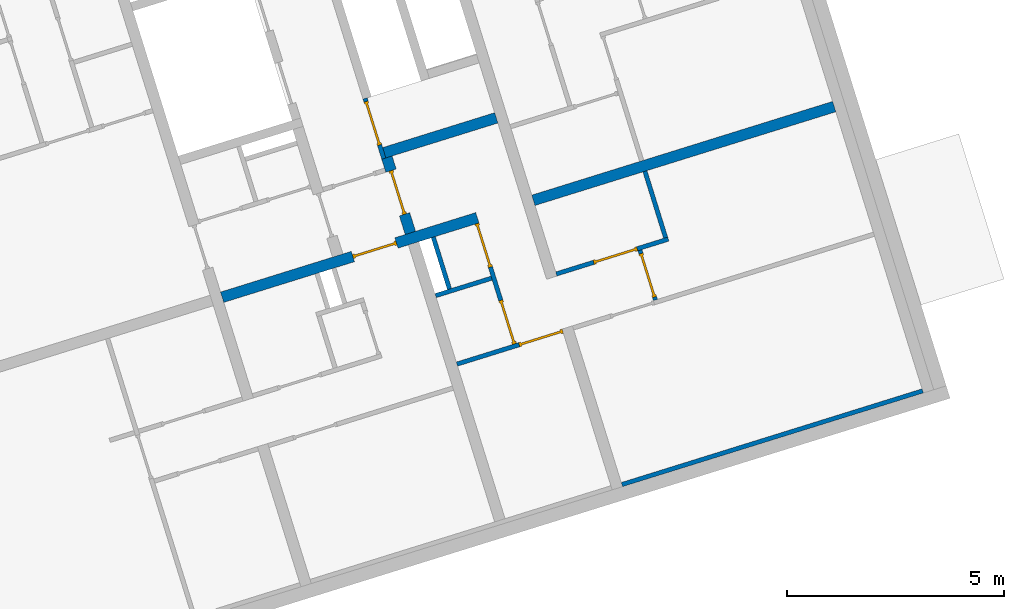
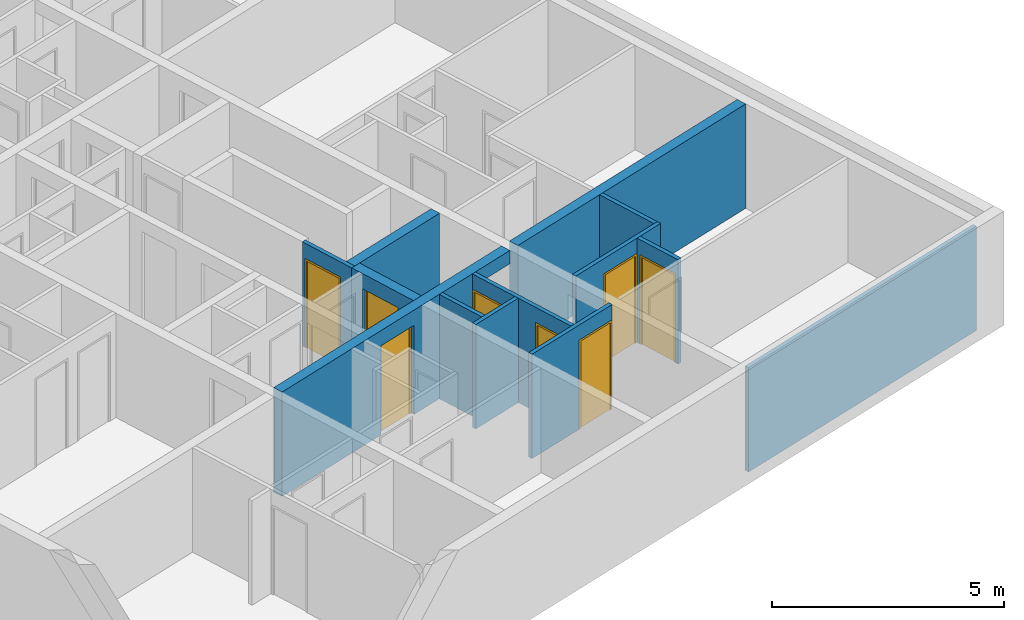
# One storey, part 3 of 9: 13 walls, 8 doors, 10 openings.
"""IFC4 building model written with IfcOpenShell, lengths in metres."""

from ifc_helpers import new_model, entity, si_unit, converted_unit, direction, frame, origin, place, context, subcontext, project, spatial, indexed_curve, outline, extrude, polygons, source, transform, mapped, material, constituent, constituent_set, type_object, type_shapes, element, fill, save


model = new_model("IFC4")

# Units and contexts
model_context = context("Model", 3, precision=1e-05, world=origin(), true_north=direction((6.12323399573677e-17, 1.0)))
body_context = subcontext(model_context, "Body", "Model", "MODEL_VIEW")
ifc_project = project(units=[si_unit("LENGTHUNIT", "METRE"), si_unit("AREAUNIT", "SQUARE_METRE"), si_unit("VOLUMEUNIT", "CUBIC_METRE"), converted_unit("PLANEANGLEUNIT", "DEGREE", entity("IfcPlaneAngleMeasure", 0.0174532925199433), si_unit("PLANEANGLEUNIT", "RADIAN"), dimensions=[0, 0, 0, 0, 0, 0, 0])], contexts=[model_context])

# Site, building, storey
site_placement = place(None, frame((13.1347999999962, 11.9886000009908, 0.0), z_axis=(0.0, 0.0, 1.0), x_axis=(0.954770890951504, 0.297342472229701, 0.0)))
site = spatial("IfcSite", under=ifc_project, at=site_placement, Name="Schiehaven", CompositionType="ELEMENT")
building_placement = place(site_placement, origin())
building = spatial("IfcBuilding", under=site, at=building_placement, Name="VORM huis", CompositionType="ELEMENT")
storey_placement = place(building_placement, frame((0.0, 0.0, 24.9)))
storey = spatial("IfcBuildingStorey", under=building, at=storey_placement, Name="08 achtste verdieping", CompositionType="ELEMENT", Elevation=24.9)

# Wall, openings, door
ifc_material_1 = material(Name="beton_gewapend_ihw", Category="Miscellaneous")
wall_type_1 = type_object("IfcWallType", Name="Basic Wall:28_WA_skelet_wand 250mm_gen", PredefinedType="STANDARD")
wall_1_placement = place(storey_placement, frame((19.8750000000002, 11.8999999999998, 0.0), z_axis=(0.0, 0.0, 1.0), x_axis=(-1.0, 0.0, 0.0)))
wall_1 = element("IfcWall", 1, at=wall_1_placement, inside=storey, type_object=wall_type_1, material=ifc_material_1, Name="Constructieve wand", ObjectType="Wand", PredefinedType="NOTDEFINED", context=body_context, shape_type="Tessellation", body=[
    polygons([(4.09999999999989, -0.124999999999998, 2.34999999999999), (4.09999999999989, -0.124999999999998, 0.0), (7.24999999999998, -0.124999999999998, 0.0), (7.24999999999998, -0.124999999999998, 2.75), (3.21810276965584e-15, -0.125, 2.75), (3.21810276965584e-15, -0.125, 2.4), (1.10000000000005, -0.125, 2.4), (1.10000000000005, -0.125, 0.0), (3.0499999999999, -0.125, 0.0), (3.0499999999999, -0.125, 2.34999999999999), (7.24999999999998, 0.125000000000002, 0.0), (4.0999999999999, 0.125000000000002, 0.0), (4.0999999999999, 0.125000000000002, 2.34999999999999), (3.0499999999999, 0.125, 2.34999999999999), (3.0499999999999, 0.125, 0.0), (1.10000000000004, 0.125, 0.0), (1.10000000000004, 0.125, 2.4), (4.15076800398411e-15, 0.125, 2.4), (8.48223652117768e-15, 0.125, 2.75), (7.24999999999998, 0.125000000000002, 2.75)], [[[1, 2, 3, 4, 5, 6, 7, 8, 9, 10]], [[11, 12, 13, 14, 15, 16, 17, 18, 19, 20]], [[9, 8, 16, 15]], [[5, 4, 20, 19]], [[5, 19, 18, 6]], [[15, 14, 10, 9]], [[13, 12, 2, 1]], [[14, 13, 1, 10]], [[17, 7, 6, 18]], [[7, 17, 16, 8]], [[4, 3, 11, 20]], [[3, 2, 12, 11]]], closed=True),
])
opening_1_placement = place(wall_1_placement, origin())
element("IfcOpeningElement", 2, at=opening_1_placement, cuts=wall_1, Name="Constructieve wand", PredefinedType="OPENING", context=body_context, shape_type="SweptSolid", body=[
    extrude(outline(indexed_curve([(-1.2, -0.550000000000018), (1.2, -0.550000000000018), (1.2, 0.550000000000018), (-1.2, 0.550000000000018), (-1.2, -0.550000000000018)], self_intersect=False)), frame((0.55000000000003, -0.125, 1.2), z_axis=(0.0, 1.0, 0.0), x_axis=(0.0, 0.0, -1.0)), (0.0, 0.0, 1.0), 0.249999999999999),
])
opening_2_placement = place(wall_1_placement, frame((4.09999999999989, 0.124999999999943, 0.0)))
opening_2 = element("IfcOpeningElement", 3, at=opening_2_placement, cuts=wall_1, Name="Woningtoegangsdeur", PredefinedType="OPENING", context=body_context, shape_type="SweptSolid", body=[
    extrude(outline(indexed_curve([(2.34999999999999, 1.05), (0.0, 1.05), (0.0, 1.08286712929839e-15), (2.34999999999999, 1.08286712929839e-15), (2.34999999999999, 1.05)], self_intersect=False)), frame((0.0, 0.0, 0.0), z_axis=(0.0, -1.0, 0.0), x_axis=(0.0, 0.0, 1.0)), (0.0, 0.0, 1.0), 0.25),
])
ifc_material_2 = material(Name="PD_a_binnenwandopeningen", Category="Miscellaneous")
ifc_constituent_1 = constituent(ifc_material_2, Name="PD_a_binnenwandopeningen", Category="Miscellaneous")
ifc_material_3 = material(Name="metaal_aluminium_ntb", Category="Miscellaneous")
ifc_constituent_2 = constituent(ifc_material_3, Name="metaal_aluminium_ntb", Category="Miscellaneous")
ifc_constituent_set_1 = constituent_set(constituents=[ifc_constituent_1, ifc_constituent_2])
door_type_1 = type_object("IfcDoorType", Name="32_DO_binnendeur enkel:woningtoegangsdeur", OperationType="REVOLVING", PredefinedType="DOOR")
shared_shape_1 = source(origin(), body_context, "Body", "SweptSolid", [
    extrude(outline(indexed_curve([(-1.16249999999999, -0.525000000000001), (1.18749999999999, -0.525), (1.18749999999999, 0.525000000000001), (-1.16249999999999, 0.525000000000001), (-1.16249999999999, 0.475), (1.13749999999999, 0.475), (1.13749999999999, -0.475), (-1.16249999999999, -0.475), (-1.16249999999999, -0.525000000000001)], self_intersect=False)), frame((0.525000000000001, 0.0749999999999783, 1.16249999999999), z_axis=(0.0, 1.0, 0.0), x_axis=(0.0, 0.0, 1.0)), (0.0, 0.0, 1.0), 0.1),
    extrude(outline(indexed_curve([(-0.025, -0.475), (0.025, -0.475), (0.025, 0.475), (-0.025, 0.475), (-0.025, -0.475)], self_intersect=False)), frame((0.525000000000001, 0.12499999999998, 0.0), z_axis=(0.0, 0.0, 1.0), x_axis=(0.0, 1.0, 0.0)), (0.0, 0.0, 1.0), 2.29999999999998),
])
door_1_placement = place(opening_2_placement, frame((0.0, 0.0, 0.0), z_axis=(0.0, 0.0, 1.0), x_axis=(-1.0, 0.0, 0.0)))
door_1 = element("IfcDoor", 4, at=door_1_placement, inside=storey, type_object=door_type_1, material=ifc_constituent_set_1, Name="Woningtoegangsdeur", ObjectType="Deur", OperationType="REVOLVING", OverallHeight=2.34999999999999, OverallWidth=1.05, PredefinedType="DOOR", context=body_context, shape_type="MappedRepresentation", body=[
    mapped(shared_shape_1, transform((0.0, 0.0, 0.0), scale=1.0)),
])
fill(opening_2, door_1)

# Walls
ifc_material_4 = material(Name="ntb_ntb_ntb", Category="Miscellaneous")
wall_type_2 = type_object("IfcWallType", Name="Basic Wall:21_WA_gevel_binnenspouwwand 100mm_gen", PredefinedType="STANDARD")
wall_2_placement = place(storey_placement, frame((20.125, 5.04999999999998, 0.0)))
element("IfcWall", 5, at=wall_2_placement, inside=storey, type_object=wall_type_2, material=ifc_material_4, Name="Binnenspouwblad", ObjectType="Wand", PredefinedType="NOTDEFINED", context=body_context, shape_type="SweptSolid", body=[
    extrude(outline(indexed_curve([(7.24999999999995, 0.0500000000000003), (-1.84844170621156e-16, 0.0500000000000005), (1.84844170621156e-16, -0.0500000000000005), (7.24999999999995, -0.0500000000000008), (7.24999999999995, 0.0500000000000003)], self_intersect=False)), origin(), (0.0, 0.0, 1.0), 2.75),
])
wall_type_3 = type_object("IfcWallType", Name="Basic Wall:22_WA_afbouw_binnenwand 250mm_gen", PredefinedType="STANDARD")
wall_3_placement = place(storey_placement, frame((20.125, 11.9, 0.0)))
element("IfcWall", 6, at=wall_3_placement, inside=storey, type_object=wall_type_3, material=ifc_material_4, Name="Binnenwand", ObjectType="Wand", PredefinedType="NOTDEFINED", context=body_context, shape_type="SweptSolid", body=[
    extrude(outline(indexed_curve([(7.24999999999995, 0.125), (-1.92055213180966e-16, 0.125), (1.92055213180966e-16, -0.125), (7.24999999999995, -0.124999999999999), (7.24999999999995, 0.125)], self_intersect=False)), origin(), (0.0, 0.0, 1.0), 2.75),
])

# Wall, opening, door
wall_4_placement = place(storey_placement, frame((17.2000000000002, 13.8399999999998, 0.0), z_axis=(0.0, 0.0, 1.0), x_axis=(0.0, -1.0, 0.0)))
wall_4 = element("IfcWall", 7, at=wall_4_placement, inside=storey, type_object=wall_type_3, material=ifc_material_4, Name="Binnenwand", ObjectType="Wand", PredefinedType="NOTDEFINED", context=body_context, shape_type="Tessellation", body=[
    polygons([(-4.33146851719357e-15, -0.124999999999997, 0.0), (0.215000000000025, -0.125, 0.0), (0.315000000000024, -0.124999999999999, 0.0), (0.315000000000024, -0.124999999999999, 2.34999999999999), (1.36500000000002, -0.125, 2.34999999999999), (1.36500000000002, -0.125, 0.0), (1.81499999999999, -0.125, 0.0), (1.81499999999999, -0.125, 2.75), (0.315000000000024, -0.124999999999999, 2.75), (0.215000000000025, -0.125, 2.75), (-4.33146851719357e-15, -0.124999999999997, 2.75), (0.315000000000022, 0.125000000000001, 2.34999999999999), (0.315000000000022, 0.125000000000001, 0.0), (0.0, 0.125, 0.0), (0.0, 0.125, 2.75), (1.81499999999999, 0.124999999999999, 2.75), (1.81499999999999, 0.124999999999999, 0.0), (1.36500000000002, 0.124999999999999, 0.0), (1.36500000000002, 0.124999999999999, 2.34999999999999), (0.0, -0.0250000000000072, 0.0), (0.0, -0.0250000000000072, 2.75)], [[[1, 2, 3, 4, 5, 6, 7, 8, 9, 10, 11]], [[12, 13, 14, 15, 16, 17, 18, 19]], [[14, 13, 3, 2, 1, 20]], [[8, 7, 17, 16]], [[11, 10, 9, 8, 16, 15, 21]], [[6, 5, 19, 18]], [[4, 3, 13, 12]], [[5, 4, 12, 19]], [[1, 11, 21, 15, 14, 20]], [[18, 17, 7, 6]]], closed=True),
])
opening_3_placement = place(wall_4_placement, frame((1.36500000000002, 0.124999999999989, 0.0)))
opening_3 = element("IfcOpeningElement", 8, at=opening_3_placement, cuts=wall_4, Name="Woningtoegangsdeur", PredefinedType="OPENING", context=body_context, shape_type="SweptSolid", body=[
    extrude(outline(indexed_curve([(2.34999999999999, 1.35358391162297e-15), (2.34999999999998, 1.05), (0.0, 1.05), (2.16573425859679e-15, 1.35358391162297e-15), (2.34999999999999, 1.35358391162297e-15)], self_intersect=False)), frame((0.0, 0.0, 0.0), z_axis=(0.0, -1.0, 0.0), x_axis=(0.0, 0.0, 1.0)), (0.0, 0.0, 1.0), 0.25),
])
ifc_constituent_3 = constituent(ifc_material_2, Name="PD_a_binnenwandopeningen", Category="Miscellaneous")
ifc_constituent_4 = constituent(ifc_material_3, Name="metaal_aluminium_ntb", Category="Miscellaneous")
ifc_constituent_set_2 = constituent_set(constituents=[ifc_constituent_3, ifc_constituent_4])
shared_shape_2 = source(origin(), body_context, "Body", "SweptSolid", [
    extrude(outline(indexed_curve([(0.475, -1.16249999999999), (0.525000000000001, -1.16249999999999), (0.525000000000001, 1.18749999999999), (-0.525000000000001, 1.18749999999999), (-0.525000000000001, -1.16249999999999), (-0.475, -1.16249999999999), (-0.475, 1.13749999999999), (0.475, 1.13749999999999), (0.475, -1.16249999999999)], self_intersect=False)), frame((0.525000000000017, 0.174999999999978, 1.16249999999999), z_axis=(0.0, -1.0, 0.0), x_axis=(1.0, 0.0, 0.0)), (0.0, 0.0, 1.0), 0.1),
    extrude(outline(indexed_curve([(-0.475, -0.025), (0.475, -0.025), (0.475, 0.025), (-0.475, 0.025), (-0.475, -0.025)], self_intersect=False)), frame((0.525000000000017, 0.12499999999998, 0.0)), (0.0, 0.0, 1.0), 2.29999999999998),
])
door_2_placement = place(opening_3_placement, frame((0.0, 0.0, 0.0), z_axis=(0.0, 0.0, 1.0), x_axis=(-1.0, 0.0, 0.0)))
door_2 = element("IfcDoor", 9, at=door_2_placement, inside=storey, type_object=door_type_1, material=ifc_constituent_set_2, Name="Woningtoegangsdeur", ObjectType="Deur", OperationType="REVOLVING", OverallHeight=2.34999999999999, OverallWidth=1.05, PredefinedType="DOOR", context=body_context, shape_type="MappedRepresentation", body=[
    mapped(shared_shape_2, transform((0.0, 0.0, 0.0), scale=1.0)),
])
fill(opening_3, door_2)

# Wall
wall_5_placement = place(storey_placement, frame((19.8750000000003, 13.9649999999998, 0.0), z_axis=(0.0, 0.0, 1.0), x_axis=(-1.0, 0.0, 0.0)))
element("IfcWall", 10, at=wall_5_placement, inside=storey, type_object=wall_type_3, material=ifc_material_4, Name="Binnenwand", ObjectType="Wand", PredefinedType="NOTDEFINED", context=body_context, shape_type="SweptSolid", body=[
    extrude(outline(indexed_curve([(2.70000000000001, 0.124999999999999), (2.34490905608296e-15, 0.125), (1.98655946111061e-15, -0.125), (2.70000000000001, -0.125), (2.70000000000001, 0.124999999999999)], self_intersect=False)), origin(), (0.0, 0.0, 1.0), 2.75),
])

# Wall, opening, door
wall_type_4 = type_object("IfcWallType", Name="Basic Wall:22_WA_afbouw_binnenwand 100mm_gen", PredefinedType="STANDARD")
wall_6_placement = place(storey_placement, frame((17.1250000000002, 13.8399999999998, 0.0), z_axis=(0.0, 0.0, 1.0), x_axis=(0.0, 1.0, 0.0)))
wall_6 = element("IfcWall", 11, at=wall_6_placement, inside=storey, type_object=wall_type_4, material=ifc_material_4, Name="Binnenwand", ObjectType="Wand", PredefinedType="NOTDEFINED", context=body_context, shape_type="Tessellation", body=[
    polygons([(1.44999999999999, -0.0499999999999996, 0.0), (1.44999999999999, -0.0499999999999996, 2.75), (0.249999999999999, -0.0500000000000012, 2.75), (2.16573425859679e-15, -0.0500000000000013, 2.75), (2.16573425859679e-15, -0.0500000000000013, 0.0), (0.249999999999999, -0.0500000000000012, 0.0), (0.324999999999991, -0.0499999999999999, 0.0), (0.324999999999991, -0.0499999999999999, 2.34999999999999), (1.37499999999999, -0.050000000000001, 2.34999999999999), (1.37499999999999, -0.050000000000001, 0.0), (1.44999999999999, 0.0500000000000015, 2.75), (1.44999999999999, 0.0500000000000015, 0.0), (1.37499999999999, 0.0500000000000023, 0.0), (1.37499999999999, 0.0500000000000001, 2.34999999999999), (0.324999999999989, 0.0500000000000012, 2.34999999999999), (0.324999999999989, 0.0500000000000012, 0.0), (0.0, 0.050000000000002, 0.0), (0.0, 0.050000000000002, 2.75)], [[[1, 2, 3, 4, 5, 6, 7, 8, 9, 10]], [[11, 12, 13, 14, 15, 16, 17, 18]], [[5, 17, 16, 7, 6]], [[2, 1, 12, 11]], [[4, 3, 2, 11, 18]], [[15, 8, 7, 16]], [[9, 14, 13, 10]], [[8, 15, 14, 9]], [[5, 4, 18, 17]], [[12, 1, 10, 13]]], closed=True),
])
opening_4_placement = place(wall_6_placement, frame((1.37499999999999, 0.0499999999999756, 0.0)))
opening_4 = element("IfcOpeningElement", 12, at=opening_4_placement, cuts=wall_6, Name="Vluchtdeur", PredefinedType="OPENING", context=body_context, shape_type="SweptSolid", body=[
    extrude(outline(indexed_curve([(2.34999999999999, 1.05), (0.0, 1.05), (0.0, 1.35358391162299e-15), (2.34999999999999, 1.35358391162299e-15), (2.34999999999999, 1.05)], self_intersect=False)), frame((0.0, 0.0, 0.0), z_axis=(0.0, -1.0, 0.0), x_axis=(0.0, 0.0, 1.0)), (0.0, 0.0, 1.0), 0.1),
])
ifc_constituent_5 = constituent(ifc_material_2, Name="PD_a_binnenwandopeningen", Category="Miscellaneous")
ifc_constituent_6 = constituent(ifc_material_3, Name="metaal_aluminium_ntb", Category="Miscellaneous")
ifc_constituent_set_3 = constituent_set(constituents=[ifc_constituent_5, ifc_constituent_6])
door_type_2 = type_object("IfcDoorType", Name="32_DO_binnendeur enkel:binnendeur zelfsluitend 30min", OperationType="NOTDEFINED", PredefinedType="DOOR")
shared_shape_3 = source(origin(), body_context, "Body", "SweptSolid", [
    extrude(outline(indexed_curve([(-1.16249999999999, -0.525000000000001), (1.18749999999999, -0.525), (1.18749999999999, 0.525), (-1.16249999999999, 0.525), (-1.16249999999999, 0.475), (1.13749999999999, 0.475), (1.13749999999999, -0.475), (-1.16249999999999, -0.475), (-1.16249999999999, -0.525000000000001)], self_intersect=False)), frame((0.525000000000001, 0.0, 1.16249999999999), z_axis=(0.0, 1.0, 0.0), x_axis=(0.0, 0.0, 1.0)), (0.0, 0.0, 1.0), 0.1),
    extrude(outline(indexed_curve([(-0.025, -0.475), (0.025, -0.475), (0.025, 0.475), (-0.025, 0.475), (-0.025, -0.475)], self_intersect=False)), frame((0.525000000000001, 0.0499999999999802, 0.0), z_axis=(0.0, 0.0, 1.0), x_axis=(0.0, 1.0, 0.0)), (0.0, 0.0, 1.0), 2.29999999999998),
])
type_shapes(door_type_2, [shared_shape_3])
door_3_placement = place(opening_4_placement, frame((0.0, 0.0, 0.0), z_axis=(0.0, 0.0, 1.0), x_axis=(-1.0, 0.0, 0.0)))
door_3 = element("IfcDoor", 13, at=door_3_placement, inside=storey, type_object=door_type_2, material=ifc_constituent_set_3, Name="Vluchtdeur", ObjectType="Deur", OperationType="NOTDEFINED", OverallHeight=2.34999999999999, OverallWidth=1.05, PredefinedType="DOOR", context=body_context, shape_type="MappedRepresentation", body=[
    mapped(shared_shape_3, transform((0.0, 0.0, 0.0), scale=1.0)),
])
fill(opening_4, door_3)

# Wall
wall_7_placement = place(storey_placement, frame((17.3250000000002, 10.4749999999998, 0.0)))
element("IfcWall", 14, at=wall_7_placement, inside=storey, type_object=wall_type_4, material=ifc_material_4, Name="Binnenwand", ObjectType="Wand", PredefinedType="NOTDEFINED", context=body_context, shape_type="SweptSolid", body=[
    extrude(outline(indexed_curve([(1.34999999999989, 0.0500000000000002), (-1.88291440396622e-16, 0.0499999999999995), (1.88291440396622e-16, -0.0499999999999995), (1.34999999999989, -0.0499999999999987), (1.34999999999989, 0.0500000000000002)], self_intersect=False)), origin(), (0.0, 0.0, 1.0), 2.75),
])

# Wall, opening, door
wall_8_placement = place(storey_placement, frame((22.8250000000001, 10.1249999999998, 0.0), z_axis=(0.0, 0.0, 1.0), x_axis=(-1.0, 0.0, 0.0)))
wall_8 = element("IfcWall", 15, at=wall_8_placement, inside=storey, type_object=wall_type_4, material=ifc_material_4, Name="Binnenwand", ObjectType="Wand", PredefinedType="NOTDEFINED", context=body_context, shape_type="Tessellation", body=[
    polygons([(4.28724628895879e-16, -0.0500000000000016, 0.0), (0.0999999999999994, -0.0500000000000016, 0.0), (0.750000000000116, -0.0500000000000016, 0.0), (0.750000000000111, -0.0500000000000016, 2.34999999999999), (1.80000000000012, -0.0500000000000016, 2.34999999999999), (1.80000000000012, -0.0500000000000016, 0.0), (2.69999999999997, -0.0500000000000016, 0.0), (2.69999999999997, -0.0500000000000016, 2.75), (0.0999999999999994, -0.0500000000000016, 2.75), (4.28724628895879e-16, -0.0500000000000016, 2.75), (0.750000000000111, 0.0499999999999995, 2.34999999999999), (0.750000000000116, 0.0499999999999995, 0.0), (0.650000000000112, 0.0499999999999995, 0.0), (1.26523112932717e-16, 0.0499999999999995, 0.0), (1.26523112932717e-16, 0.0499999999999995, 2.75), (0.650000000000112, 0.0499999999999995, 2.75), (0.750000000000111, 0.0499999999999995, 2.75), (2.69999999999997, 0.0499999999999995, 2.75), (2.69999999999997, 0.0499999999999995, 0.0), (1.80000000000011, 0.0499999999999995, 0.0), (1.80000000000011, 0.0499999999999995, 2.34999999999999)], [[[1, 2, 3, 4, 5, 6, 7, 8, 9, 10]], [[11, 12, 13, 14, 15, 16, 17, 18, 19, 20, 21]], [[14, 13, 12, 3, 2, 1]], [[8, 7, 19, 18]], [[10, 9, 8, 18, 17, 16, 15]], [[6, 5, 21, 20]], [[4, 3, 12, 11]], [[5, 4, 11, 21]], [[1, 10, 15, 14]], [[20, 19, 7, 6]]], closed=True),
])
opening_5_placement = place(wall_8_placement, frame((0.750000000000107, -0.0500000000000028, 0.0)))
opening_5 = element("IfcOpeningElement", 16, at=opening_5_placement, cuts=wall_8, Name="Binnendeur", PredefinedType="OPENING", context=body_context, shape_type="SweptSolid", body=[
    extrude(outline(indexed_curve([(2.34999999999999, 1.05), (0.0, 1.05), (0.0, -3.50253438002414e-30), (2.34999999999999, -3.50253438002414e-30), (2.34999999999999, 1.05)], self_intersect=False)), frame((0.0, 0.0, 0.0), z_axis=(0.0, 1.0, 0.0), x_axis=(0.0, 0.0, 1.0)), (0.0, 0.0, 1.0), 0.1),
])
ifc_constituent_7 = constituent(ifc_material_2, Name="PD_a_binnenwandopeningen", Category="Miscellaneous")
ifc_constituent_8 = constituent(ifc_material_3, Name="metaal_aluminium_ntb", Category="Miscellaneous")
ifc_constituent_set_4 = constituent_set(constituents=[ifc_constituent_7, ifc_constituent_8])
door_type_3 = type_object("IfcDoorType", Name="32_DO_binnendeur enkel:binnendeur", OperationType="REVOLVING", PredefinedType="DOOR")
shared_shape_4 = source(origin(), body_context, "Body", "SweptSolid", [
    extrude(outline(indexed_curve([(-1.16249999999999, -0.525000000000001), (1.18749999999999, -0.525), (1.18749999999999, 0.525), (-1.16249999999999, 0.525), (-1.16249999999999, 0.475), (1.13749999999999, 0.475), (1.13749999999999, -0.475), (-1.16249999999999, -0.475), (-1.16249999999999, -0.525000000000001)], self_intersect=False)), frame((0.525000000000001, 0.0, 1.16249999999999), z_axis=(0.0, 1.0, 0.0), x_axis=(0.0, 0.0, 1.0)), (0.0, 0.0, 1.0), 0.1),
    extrude(outline(indexed_curve([(-0.025, -0.475), (0.025, -0.475), (0.025, 0.475), (-0.025, 0.475), (-0.025, -0.475)], self_intersect=False)), frame((0.525000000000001, 0.0499999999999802, 0.0), z_axis=(0.0, 0.0, 1.0), x_axis=(0.0, 1.0, 0.0)), (0.0, 0.0, 1.0), 2.29999999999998),
])
type_shapes(door_type_3, [shared_shape_4])
door_4_placement = place(opening_5_placement, origin())
door_4 = element("IfcDoor", 17, at=door_4_placement, inside=storey, type_object=door_type_3, material=ifc_constituent_set_4, Name="Binnendeur", ObjectType="Deur", OperationType="REVOLVING", OverallHeight=2.34999999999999, OverallWidth=1.05, PredefinedType="DOOR", context=body_context, shape_type="MappedRepresentation", body=[
    mapped(shared_shape_4, transform((0.0, 0.0, 0.0), scale=1.0)),
])
fill(opening_5, door_4)

# Wall
wall_9_placement = place(storey_placement, frame((22.7750000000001, 10.1749999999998, 0.0), z_axis=(0.0, 0.0, 1.0), x_axis=(0.0, 1.0, 0.0)))
element("IfcWall", 18, at=wall_9_placement, inside=storey, type_object=wall_type_4, material=ifc_material_4, Name="Binnenwand", ObjectType="Wand", PredefinedType="NOTDEFINED", context=body_context, shape_type="SweptSolid", body=[
    extrude(outline(indexed_curve([(1.6000000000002, 0.0500000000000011), (-1.18119716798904e-16, 0.0500000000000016), (1.18119716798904e-16, -0.0500000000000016), (1.6000000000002, -0.0500000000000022), (1.6000000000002, 0.0500000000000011)], self_intersect=False)), origin(), (0.0, 0.0, 1.0), 2.75),
])

# Wall, opening, door
wall_10_placement = place(storey_placement, frame((22.125, 10.0749999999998, 0.0), z_axis=(0.0, 0.0, 1.0), x_axis=(0.0, -1.0, 0.0)))
wall_10 = element("IfcWall", 19, at=wall_10_placement, inside=storey, type_object=wall_type_4, material=ifc_material_4, Name="Binnenwand", ObjectType="Wand", PredefinedType="NOTDEFINED", context=body_context, shape_type="Tessellation", body=[
    polygons([(1.19999999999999, -0.0499999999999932, 2.75), (0.0, -0.0499999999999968, 2.75), (0.0, -0.0499999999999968, 2.34999999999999), (0.0, -0.0499999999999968, 0.0), (0.0799999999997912, -0.049999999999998, 0.0), (0.0799999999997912, -0.0499999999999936, 2.34999999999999), (1.12999999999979, -0.0499999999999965, 2.34999999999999), (1.12999999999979, -0.0499999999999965, 0.0), (1.19999999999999, -0.0499999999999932, 0.0), (1.19999999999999, -0.0499999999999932, 2.34999999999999), (2.16573425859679e-15, 0.0500000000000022, 2.75), (1.19999999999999, 0.0500000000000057, 2.75), (1.19999999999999, 0.0500000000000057, 0.0), (1.12999999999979, 0.0500000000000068, 0.0), (1.12999999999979, 0.0500000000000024, 2.34999999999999), (0.0799999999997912, 0.0500000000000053, 2.34999999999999), (0.0799999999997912, 0.0500000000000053, 0.0), (2.16573425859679e-15, 0.0500000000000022, 0.0)], [[[1, 2, 3, 4, 5, 6, 7, 8, 9, 10]], [[11, 12, 13, 14, 15, 16, 17, 18]], [[4, 18, 17, 5]], [[2, 1, 12, 11]], [[7, 15, 14, 8]], [[15, 7, 6, 16]], [[16, 6, 5, 17]], [[1, 10, 9, 13, 12]], [[4, 3, 2, 11, 18]], [[13, 9, 8, 14]]], closed=True),
])
opening_6_placement = place(wall_10_placement, frame((1.12999999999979, 0.0500000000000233, 0.0)))
opening_6 = element("IfcOpeningElement", 20, at=opening_6_placement, cuts=wall_10, Name="Binnendeur", PredefinedType="OPENING", context=body_context, shape_type="SweptSolid", body=[
    extrude(outline(indexed_curve([(2.34999999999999, 1.35358391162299e-15), (2.34999999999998, 1.05), (0.0, 1.05), (2.16573425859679e-15, 1.35358391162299e-15), (2.34999999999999, 1.35358391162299e-15)], self_intersect=False)), frame((0.0, 0.0, 0.0), z_axis=(0.0, -1.0, 0.0), x_axis=(0.0, 0.0, 1.0)), (0.0, 0.0, 1.0), 0.1),
])
ifc_constituent_9 = constituent(ifc_material_2, Name="PD_a_binnenwandopeningen", Category="Miscellaneous")
ifc_constituent_10 = constituent(ifc_material_3, Name="metaal_aluminium_ntb", Category="Miscellaneous")
ifc_constituent_set_5 = constituent_set(constituents=[ifc_constituent_9, ifc_constituent_10])
shared_shape_5 = source(origin(), body_context, "Body", "SweptSolid", [
    extrude(outline(indexed_curve([(0.475, -1.16249999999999), (0.525, -1.16249999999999), (0.525, 1.18749999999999), (-0.525, 1.18749999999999), (-0.525, -1.16249999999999), (-0.475, -1.16249999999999), (-0.475, 1.13749999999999), (0.475, 1.13749999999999), (0.475, -1.16249999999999)], self_intersect=False)), frame((0.525000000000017, 0.100000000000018, 1.16249999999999), z_axis=(0.0, -1.0, 0.0), x_axis=(1.0, 0.0, 0.0)), (0.0, 0.0, 1.0), 0.1),
    extrude(outline(indexed_curve([(-0.475, -0.025), (0.475, -0.025), (0.475, 0.025), (-0.475, 0.025), (-0.475, -0.025)], self_intersect=False)), frame((0.525000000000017, 0.0499999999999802, 0.0)), (0.0, 0.0, 1.0), 2.29999999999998),
])
door_5_placement = place(opening_6_placement, frame((0.0, 0.0, 0.0), z_axis=(0.0, 0.0, 1.0), x_axis=(-1.0, 0.0, 0.0)))
door_5 = element("IfcDoor", 21, at=door_5_placement, inside=storey, type_object=door_type_3, material=ifc_constituent_set_5, Name="Binnendeur", ObjectType="Deur", OperationType="REVOLVING", OverallHeight=2.34999999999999, OverallWidth=1.05, PredefinedType="DOOR", context=body_context, shape_type="MappedRepresentation", body=[
    mapped(shared_shape_5, transform((0.0, 0.0, 0.0), scale=1.0)),
])
fill(opening_6, door_5)

# Wall, openings, door
wall_11_placement = place(storey_placement, frame((17.3250000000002, 8.82499999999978, 0.0)))
wall_11 = element("IfcWall", 22, at=wall_11_placement, inside=storey, type_object=wall_type_4, material=ifc_material_4, Name="Binnenwand", ObjectType="Wand", PredefinedType="NOTDEFINED", context=body_context, shape_type="Tessellation", body=[
    polygons([(2.5499999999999, -0.0499999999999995, 2.75), (1.60660034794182e-15, -0.0500000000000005, 2.75), (1.60660034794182e-15, -0.0500000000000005, 0.0), (1.49999999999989, -0.0500000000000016, 0.0), (1.49999999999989, -0.0500000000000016, 2.34999999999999), (2.5499999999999, -0.0499999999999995, 2.34999999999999), (1.23001746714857e-15, 0.0499999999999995, 2.75), (1.34999999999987, 0.0499999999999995, 2.75), (1.44999999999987, 0.0499999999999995, 2.75), (2.5499999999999, 0.0499999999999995, 2.75), (2.5499999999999, 0.0499999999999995, 2.34999999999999), (1.49999999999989, 0.0499999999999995, 2.34999999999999), (1.49999999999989, 0.0499999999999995, 0.0), (1.23001746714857e-15, 0.0499999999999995, 0.0)], [[[1, 2, 3, 4, 5, 6]], [[7, 8, 9, 10, 11, 12, 13, 14]], [[3, 14, 13, 4]], [[10, 1, 6, 11]], [[2, 1, 10, 9, 8, 7]], [[3, 2, 7, 14]], [[12, 5, 4, 13]], [[5, 12, 11, 6]]], closed=True),
])
opening_7_placement = place(wall_11_placement, origin())
element("IfcOpeningElement", 23, at=opening_7_placement, cuts=wall_11, Name="Binnendeur", PredefinedType="OPENING", context=body_context, shape_type="SweptSolid", body=[
    extrude(outline(indexed_curve([(-0.0499999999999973, -1.17499999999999), (0.0500000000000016, -1.17499999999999), (0.0500000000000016, 1.17499999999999), (-0.0499999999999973, 1.17499999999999), (-0.0499999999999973, -1.17499999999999)], self_intersect=False)), frame((1.39999999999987, 0.0500000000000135, 1.17499999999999), z_axis=(0.0, 1.0, 0.0), x_axis=(-1.0, 0.0, 0.0)), (0.0, 0.0, 1.0), 1.05),
])
opening_8_placement = place(wall_11_placement, frame((1.49999999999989, -0.0500000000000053, 0.0)))
opening_8 = element("IfcOpeningElement", 24, at=opening_8_placement, cuts=wall_11, Name="Binnendeur", PredefinedType="OPENING", context=body_context, shape_type="SweptSolid", body=[
    extrude(outline(indexed_curve([(2.34999999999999, 1.05), (0.0, 1.05), (0.0, 1.35358391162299e-15), (2.34999999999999, 1.35358391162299e-15), (2.34999999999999, 1.05)], self_intersect=False)), frame((0.0, 0.0, 0.0), z_axis=(0.0, 1.0, 0.0), x_axis=(0.0, 0.0, 1.0)), (0.0, 0.0, 1.0), 0.1),
])
ifc_constituent_11 = constituent(ifc_material_2, Name="PD_a_binnenwandopeningen", Category="Miscellaneous")
ifc_constituent_12 = constituent(ifc_material_3, Name="metaal_aluminium_ntb", Category="Miscellaneous")
ifc_constituent_set_6 = constituent_set(constituents=[ifc_constituent_11, ifc_constituent_12])
door_6_placement = place(opening_8_placement, origin())
door_6 = element("IfcDoor", 25, at=door_6_placement, inside=storey, type_object=door_type_3, material=ifc_constituent_set_6, Name="Binnendeur", ObjectType="Deur", OperationType="REVOLVING", OverallHeight=2.34999999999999, OverallWidth=1.05, PredefinedType="DOOR", context=body_context, shape_type="MappedRepresentation", body=[
    mapped(shared_shape_4, transform((0.0, 0.0, 0.0), scale=1.0)),
])
fill(opening_8, door_6)

# Wall, openings, doors
wall_12_placement = place(storey_placement, frame((18.7250000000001, 11.7749999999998, 0.0), z_axis=(0.0, 0.0, 1.0), x_axis=(0.0, -1.0, 0.0)))
wall_12 = element("IfcWall", 26, at=wall_12_placement, inside=storey, type_object=wall_type_4, material=ifc_material_4, Name="Binnenwand", ObjectType="Wand", PredefinedType="NOTDEFINED", context=body_context, shape_type="Tessellation", body=[
    polygons([(2.90000000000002, -0.0499999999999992, 2.75), (1.35000000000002, -0.0499999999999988, 2.75), (1.25000000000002, -0.0500000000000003, 2.75), (2.16573425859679e-15, -0.0499999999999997, 2.75), (2.16573425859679e-15, -0.0499999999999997, 2.34999999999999), (1.05, -0.049999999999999, 2.34999999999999), (1.05, -0.0500000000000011, 0.0), (1.25000000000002, -0.0500000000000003, 0.0), (1.35000000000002, -0.0499999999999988, 0.0), (1.85, -0.0499999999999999, 0.0), (1.85, -0.0499999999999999, 2.34999999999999), (2.90000000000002, -0.0499999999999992, 2.34999999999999), (2.16573425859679e-15, 0.0500000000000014, 2.75), (2.90000000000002, 0.0499999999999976, 2.75), (2.90000000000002, 0.0499999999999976, 2.34999999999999), (1.85, 0.049999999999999, 2.34999999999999), (1.85, 0.049999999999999, 0.0), (1.05, 0.0499999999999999, 0.0), (1.05, 0.0499999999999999, 2.34999999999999), (2.16573425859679e-15, 0.0500000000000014, 2.34999999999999)], [[[1, 2, 3, 4, 5, 6, 7, 8, 9, 10, 11, 12]], [[13, 14, 15, 16, 17, 18, 19, 20]], [[17, 10, 9, 8, 7, 18]], [[4, 3, 2, 1, 14, 13]], [[4, 13, 20, 5]], [[6, 19, 18, 7]], [[19, 6, 5, 20]], [[16, 11, 10, 17]], [[11, 16, 15, 12]], [[14, 1, 12, 15]]], closed=True),
])
opening_9_placement = place(wall_12_placement, frame((1.85, -0.0500000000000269, 0.0)))
opening_9 = element("IfcOpeningElement", 27, at=opening_9_placement, cuts=wall_12, Name="Binnendeur", PredefinedType="OPENING", context=body_context, shape_type="SweptSolid", body=[
    extrude(outline(indexed_curve([(2.34999999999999, 1.05), (0.0, 1.05), (0.0, 2.70716782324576e-16), (2.34999999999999, 2.70716782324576e-16), (2.34999999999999, 1.05)], self_intersect=False)), frame((0.0, 0.0, 0.0), z_axis=(0.0, 1.0, 0.0), x_axis=(0.0, 0.0, 1.0)), (0.0, 0.0, 1.0), 0.1),
])
opening_10_placement = place(wall_12_placement, frame((0.0, -0.0499999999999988, 0.0)))
opening_10 = element("IfcOpeningElement", 28, at=opening_10_placement, cuts=wall_12, Name="Binnendeur", PredefinedType="OPENING", context=body_context, shape_type="SweptSolid", body=[
    extrude(outline(indexed_curve([(2.34999999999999, 1.05), (0.0, 1.05), (0.0, 1.35358391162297e-15), (2.34999999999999, 1.35358391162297e-15), (2.34999999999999, 1.05)], self_intersect=False)), frame((0.0, 0.0, 0.0), z_axis=(0.0, 1.0, 0.0), x_axis=(0.0, 0.0, 1.0)), (0.0, 0.0, 1.0), 0.1),
])
ifc_constituent_13 = constituent(ifc_material_2, Name="PD_a_binnenwandopeningen", Category="Miscellaneous")
ifc_constituent_14 = constituent(ifc_material_3, Name="metaal_aluminium_ntb", Category="Miscellaneous")
ifc_constituent_set_7 = constituent_set(constituents=[ifc_constituent_13, ifc_constituent_14])
door_7_placement = place(opening_9_placement, origin())
door_7 = element("IfcDoor", 29, at=door_7_placement, inside=storey, type_object=door_type_3, material=ifc_constituent_set_7, Name="Binnendeur", ObjectType="Deur", OperationType="REVOLVING", OverallHeight=2.34999999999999, OverallWidth=1.05, PredefinedType="DOOR", context=body_context, shape_type="MappedRepresentation", body=[
    mapped(shared_shape_4, transform((0.0, 0.0, 0.0), scale=1.0)),
])
fill(opening_9, door_7)
ifc_constituent_15 = constituent(ifc_material_2, Name="PD_a_binnenwandopeningen", Category="Miscellaneous")
ifc_constituent_16 = constituent(ifc_material_3, Name="metaal_aluminium_ntb", Category="Miscellaneous")
ifc_constituent_set_8 = constituent_set(constituents=[ifc_constituent_15, ifc_constituent_16])
door_8_placement = place(opening_10_placement, origin())
door_8 = element("IfcDoor", 30, at=door_8_placement, inside=storey, type_object=door_type_3, material=ifc_constituent_set_8, Name="Binnendeur", ObjectType="Deur", OperationType="REVOLVING", OverallHeight=2.34999999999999, OverallWidth=1.05, PredefinedType="DOOR", context=body_context, shape_type="MappedRepresentation", body=[
    mapped(shared_shape_4, transform((0.0, 0.0, 0.0), scale=1.0)),
])
fill(opening_10, door_8)

# Wall
wall_13_placement = place(storey_placement, frame((17.6750000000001, 11.7749999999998, 0.0), z_axis=(0.0, 0.0, 1.0), x_axis=(0.0, -1.0, 0.0)))
element("IfcWall", 31, at=wall_13_placement, inside=storey, type_object=wall_type_4, material=ifc_material_4, Name="Binnenwand", ObjectType="Wand", PredefinedType="NOTDEFINED", context=body_context, shape_type="SweptSolid", body=[
    extrude(outline(indexed_curve([(1.25000000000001, 0.0500000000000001), (7.54991624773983e-16, 0.0499999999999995), (-7.54991624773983e-16, -0.0499999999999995), (1.25000000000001, -0.0499999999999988), (1.25000000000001, 0.0500000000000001)], self_intersect=False)), origin(), (0.0, 0.0, 1.0), 2.75),
])

save(model, "model.ifc")
